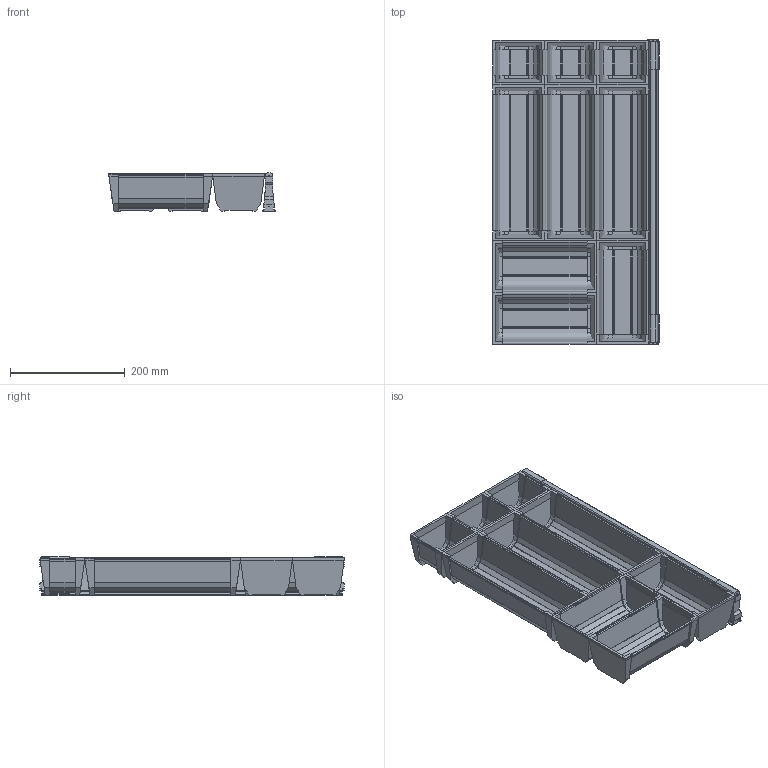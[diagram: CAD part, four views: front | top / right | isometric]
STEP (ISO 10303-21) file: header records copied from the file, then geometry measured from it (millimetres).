
FILE_DESCRIPTION (( 'STEP AP214' ), '1' );
FILE_NAME ('Inoxsys_B3_NL-550.STEP', '2010-08-17T11:54:19', ( 'grass' ), ( '' ), 'SwSTEP 2.0', 'SolidWorks 2010', '' );
FILE_SCHEMA (( 'AUTOMOTIVE_DESIGN' ));
Length unit declared in the file: millimetre
Products named in the file (1): Inoxsys_B3_NL-550
Bounding box: 290.01 x 531 x 67.5 mm (x, y, z)
Volume: 994552.5 mm3; surface area: 841748.2 mm2
Topology: 10 solids, 10 shells, 1133 faces, 3285 edges, 2190 vertices
Faces by surface type: plane 777, cylinder 356
Entity records: 49897 total; most frequent: CARTESIAN_POINT 6963, ORIENTED_EDGE 6570, DIRECTION 6153, EDGE_CURVE 3285, LINE 2521, VECTOR 2521, VERTEX_POINT 2190, AXIS2_PLACEMENT_3D 1816
